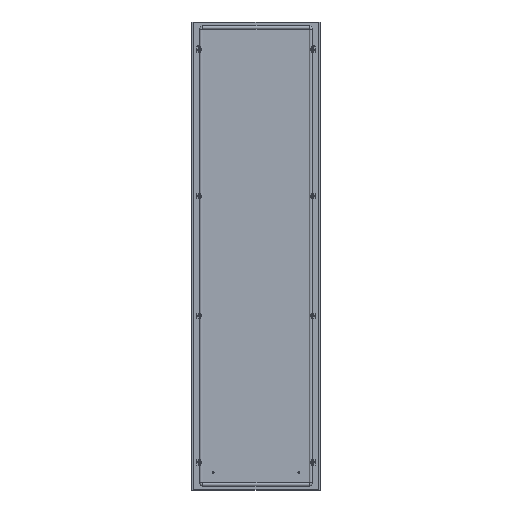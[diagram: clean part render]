
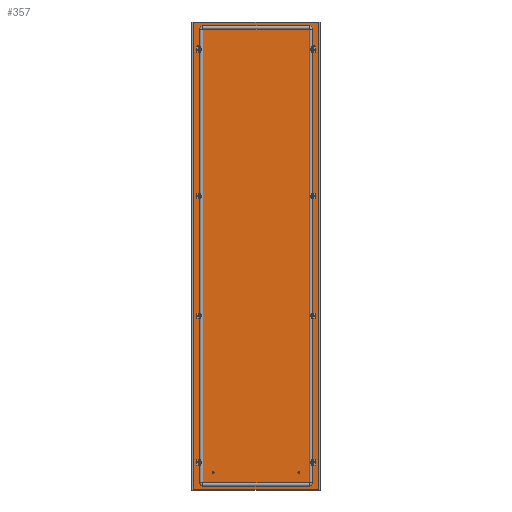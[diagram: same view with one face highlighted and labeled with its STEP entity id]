
A CAD part, top view. The second image highlights one B-rep face of the part: STEP entity #357.
In plain terms, the highlighted planar face has unit normal (0, 0, 1).
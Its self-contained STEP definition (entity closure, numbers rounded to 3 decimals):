
#357 = ADVANCED_FACE('',(#358,#456,#467,#478,#498,#518,#529,#540,#560),
  #580,.F.);
#358 = FACE_BOUND('',#359,.T.);
#359 = EDGE_LOOP('',(#360,#370,#378,#386,#394,#402,#410,#418,#426,#434,
    #442,#450));
#360 = ORIENTED_EDGE('',*,*,#361,.F.);
#361 = EDGE_CURVE('',#362,#364,#366,.T.);
#362 = VERTEX_POINT('',#363);
#363 = CARTESIAN_POINT('',(-295.5,1077.5,
    0.));
#364 = VERTEX_POINT('',#365);
#365 = CARTESIAN_POINT('',(-295.3,1077.5,
    0.));
#366 = LINE('',#367,#368);
#367 = CARTESIAN_POINT('',(0.,1077.5,
    0.));
#368 = VECTOR('',#369,1.);
#369 = DIRECTION('',(1.,0.,0.));
#370 = ORIENTED_EDGE('',*,*,#371,.T.);
#371 = EDGE_CURVE('',#362,#372,#374,.T.);
#372 = VERTEX_POINT('',#373);
#373 = CARTESIAN_POINT('',(-295.5,-1077.5,
    0.));
#374 = LINE('',#375,#376);
#375 = CARTESIAN_POINT('',(-295.5,0.,
    0.));
#376 = VECTOR('',#377,1.);
#377 = DIRECTION('',(0.,-1.,0.));
#378 = ORIENTED_EDGE('',*,*,#379,.T.);
#379 = EDGE_CURVE('',#372,#380,#382,.T.);
#380 = VERTEX_POINT('',#381);
#381 = CARTESIAN_POINT('',(-295.3,-1077.5,
    0.));
#382 = LINE('',#383,#384);
#383 = CARTESIAN_POINT('',(0.,-1077.5,
    0.));
#384 = VECTOR('',#385,1.);
#385 = DIRECTION('',(1.,-0.,-0.));
#386 = ORIENTED_EDGE('',*,*,#387,.F.);
#387 = EDGE_CURVE('',#388,#380,#390,.T.);
#388 = VERTEX_POINT('',#389);
#389 = CARTESIAN_POINT('',(-295.3,-1076.,
    0.));
#390 = LINE('',#391,#392);
#391 = CARTESIAN_POINT('',(-295.3,0.,
    0.));
#392 = VECTOR('',#393,1.);
#393 = DIRECTION('',(0.,-1.,0.));
#394 = ORIENTED_EDGE('',*,*,#395,.T.);
#395 = EDGE_CURVE('',#388,#396,#398,.T.);
#396 = VERTEX_POINT('',#397);
#397 = CARTESIAN_POINT('',(295.3,-1076.,0.));
#398 = LINE('',#399,#400);
#399 = CARTESIAN_POINT('',(0.,-1076.,
    0.));
#400 = VECTOR('',#401,1.);
#401 = DIRECTION('',(1.,-0.,-0.));
#402 = ORIENTED_EDGE('',*,*,#403,.T.);
#403 = EDGE_CURVE('',#396,#404,#406,.T.);
#404 = VERTEX_POINT('',#405);
#405 = CARTESIAN_POINT('',(295.3,-1077.5,0.));
#406 = LINE('',#407,#408);
#407 = CARTESIAN_POINT('',(295.3,-1076.,0.));
#408 = VECTOR('',#409,1.);
#409 = DIRECTION('',(0.,-1.,0.));
#410 = ORIENTED_EDGE('',*,*,#411,.F.);
#411 = EDGE_CURVE('',#412,#404,#414,.T.);
#412 = VERTEX_POINT('',#413);
#413 = CARTESIAN_POINT('',(295.5,-1077.5,
    0.));
#414 = LINE('',#415,#416);
#415 = CARTESIAN_POINT('',(0.,-1077.5,
    0.));
#416 = VECTOR('',#417,1.);
#417 = DIRECTION('',(-1.,0.,0.));
#418 = ORIENTED_EDGE('',*,*,#419,.T.);
#419 = EDGE_CURVE('',#412,#420,#422,.T.);
#420 = VERTEX_POINT('',#421);
#421 = CARTESIAN_POINT('',(295.5,1077.5,
    0.));
#422 = LINE('',#423,#424);
#423 = CARTESIAN_POINT('',(295.5,0.,0.));
#424 = VECTOR('',#425,1.);
#425 = DIRECTION('',(0.,1.,0.));
#426 = ORIENTED_EDGE('',*,*,#427,.T.);
#427 = EDGE_CURVE('',#420,#428,#430,.T.);
#428 = VERTEX_POINT('',#429);
#429 = CARTESIAN_POINT('',(295.3,1077.5,0.));
#430 = LINE('',#431,#432);
#431 = CARTESIAN_POINT('',(0.,1077.5,
    0.));
#432 = VECTOR('',#433,1.);
#433 = DIRECTION('',(-1.,0.,0.));
#434 = ORIENTED_EDGE('',*,*,#435,.F.);
#435 = EDGE_CURVE('',#436,#428,#438,.T.);
#436 = VERTEX_POINT('',#437);
#437 = CARTESIAN_POINT('',(295.3,1076.,0.));
#438 = LINE('',#439,#440);
#439 = CARTESIAN_POINT('',(295.3,0.,0.
    ));
#440 = VECTOR('',#441,1.);
#441 = DIRECTION('',(0.,1.,0.));
#442 = ORIENTED_EDGE('',*,*,#443,.T.);
#443 = EDGE_CURVE('',#436,#444,#446,.T.);
#444 = VERTEX_POINT('',#445);
#445 = CARTESIAN_POINT('',(-295.3,1076.,0.
    ));
#446 = LINE('',#447,#448);
#447 = CARTESIAN_POINT('',(0.,1076.,
    0.));
#448 = VECTOR('',#449,1.);
#449 = DIRECTION('',(-1.,0.,0.));
#450 = ORIENTED_EDGE('',*,*,#451,.T.);
#451 = EDGE_CURVE('',#444,#364,#452,.T.);
#452 = LINE('',#453,#454);
#453 = CARTESIAN_POINT('',(-295.3,1076.,0.
    ));
#454 = VECTOR('',#455,1.);
#455 = DIRECTION('',(0.,1.,0.));
#456 = FACE_BOUND('',#457,.T.);
#457 = EDGE_LOOP('',(#458));
#458 = ORIENTED_EDGE('',*,*,#459,.T.);
#459 = EDGE_CURVE('',#460,#460,#462,.T.);
#460 = VERTEX_POINT('',#461);
#461 = CARTESIAN_POINT('',(-264.5,-270.25,
    0.));
#462 = CIRCLE('',#463,4.75);
#463 = AXIS2_PLACEMENT_3D('',#464,#465,#466);
#464 = CARTESIAN_POINT('',(-264.5,-275.,0.));
#465 = DIRECTION('',(0.,0.,-1.));
#466 = DIRECTION('',(0.,1.,0.));
#467 = FACE_BOUND('',#468,.T.);
#468 = EDGE_LOOP('',(#469));
#469 = ORIENTED_EDGE('',*,*,#470,.T.);
#470 = EDGE_CURVE('',#471,#471,#473,.T.);
#471 = VERTEX_POINT('',#472);
#472 = CARTESIAN_POINT('',(264.5,-279.75,
    0.));
#473 = CIRCLE('',#474,4.75);
#474 = AXIS2_PLACEMENT_3D('',#475,#476,#477);
#475 = CARTESIAN_POINT('',(264.5,-275.,0.));
#476 = DIRECTION('',(-0.,0.,-1.));
#477 = DIRECTION('',(0.,-1.,0.));
#478 = FACE_BOUND('',#479,.T.);
#479 = EDGE_LOOP('',(#480,#491));
#480 = ORIENTED_EDGE('',*,*,#481,.F.);
#481 = EDGE_CURVE('',#482,#484,#486,.T.);
#482 = VERTEX_POINT('',#483);
#483 = CARTESIAN_POINT('',(-264.5,954.75,
    0.));
#484 = VERTEX_POINT('',#485);
#485 = CARTESIAN_POINT('',(-264.5,945.25,
    0.));
#486 = CIRCLE('',#487,4.75);
#487 = AXIS2_PLACEMENT_3D('',#488,#489,#490);
#488 = CARTESIAN_POINT('',(-264.5,950.,0.));
#489 = DIRECTION('',(0.,0.,1.));
#490 = DIRECTION('',(0.,1.,0.));
#491 = ORIENTED_EDGE('',*,*,#492,.F.);
#492 = EDGE_CURVE('',#484,#482,#493,.T.);
#493 = CIRCLE('',#494,4.75);
#494 = AXIS2_PLACEMENT_3D('',#495,#496,#497);
#495 = CARTESIAN_POINT('',(-264.5,950.,0.));
#496 = DIRECTION('',(0.,0.,1.));
#497 = DIRECTION('',(0.,1.,0.));
#498 = FACE_BOUND('',#499,.T.);
#499 = EDGE_LOOP('',(#500,#511));
#500 = ORIENTED_EDGE('',*,*,#501,.F.);
#501 = EDGE_CURVE('',#502,#504,#506,.T.);
#502 = VERTEX_POINT('',#503);
#503 = CARTESIAN_POINT('',(264.5,945.25,
    0.));
#504 = VERTEX_POINT('',#505);
#505 = CARTESIAN_POINT('',(264.5,954.75,
    0.));
#506 = CIRCLE('',#507,4.75);
#507 = AXIS2_PLACEMENT_3D('',#508,#509,#510);
#508 = CARTESIAN_POINT('',(264.5,950.,0.));
#509 = DIRECTION('',(0.,0.,1.));
#510 = DIRECTION('',(0.,-1.,0.));
#511 = ORIENTED_EDGE('',*,*,#512,.F.);
#512 = EDGE_CURVE('',#504,#502,#513,.T.);
#513 = CIRCLE('',#514,4.75);
#514 = AXIS2_PLACEMENT_3D('',#515,#516,#517);
#515 = CARTESIAN_POINT('',(264.5,950.,0.));
#516 = DIRECTION('',(0.,0.,1.));
#517 = DIRECTION('',(0.,-1.,0.));
#518 = FACE_BOUND('',#519,.T.);
#519 = EDGE_LOOP('',(#520));
#520 = ORIENTED_EDGE('',*,*,#521,.T.);
#521 = EDGE_CURVE('',#522,#522,#524,.T.);
#522 = VERTEX_POINT('',#523);
#523 = CARTESIAN_POINT('',(-264.5,-945.25,
    0.));
#524 = CIRCLE('',#525,4.75);
#525 = AXIS2_PLACEMENT_3D('',#526,#527,#528);
#526 = CARTESIAN_POINT('',(-264.5,-950.,0.));
#527 = DIRECTION('',(0.,0.,-1.));
#528 = DIRECTION('',(0.,1.,0.));
#529 = FACE_BOUND('',#530,.T.);
#530 = EDGE_LOOP('',(#531));
#531 = ORIENTED_EDGE('',*,*,#532,.T.);
#532 = EDGE_CURVE('',#533,#533,#535,.T.);
#533 = VERTEX_POINT('',#534);
#534 = CARTESIAN_POINT('',(264.5,-954.75,
    0.));
#535 = CIRCLE('',#536,4.75);
#536 = AXIS2_PLACEMENT_3D('',#537,#538,#539);
#537 = CARTESIAN_POINT('',(264.5,-950.,0.));
#538 = DIRECTION('',(-0.,0.,-1.));
#539 = DIRECTION('',(0.,-1.,0.));
#540 = FACE_BOUND('',#541,.T.);
#541 = EDGE_LOOP('',(#542,#553));
#542 = ORIENTED_EDGE('',*,*,#543,.F.);
#543 = EDGE_CURVE('',#544,#546,#548,.T.);
#544 = VERTEX_POINT('',#545);
#545 = CARTESIAN_POINT('',(264.5,270.25,
    0.));
#546 = VERTEX_POINT('',#547);
#547 = CARTESIAN_POINT('',(264.5,279.75,
    0.));
#548 = CIRCLE('',#549,4.75);
#549 = AXIS2_PLACEMENT_3D('',#550,#551,#552);
#550 = CARTESIAN_POINT('',(264.5,275.,0.));
#551 = DIRECTION('',(0.,0.,1.));
#552 = DIRECTION('',(0.,-1.,0.));
#553 = ORIENTED_EDGE('',*,*,#554,.F.);
#554 = EDGE_CURVE('',#546,#544,#555,.T.);
#555 = CIRCLE('',#556,4.75);
#556 = AXIS2_PLACEMENT_3D('',#557,#558,#559);
#557 = CARTESIAN_POINT('',(264.5,275.,0.));
#558 = DIRECTION('',(0.,0.,1.));
#559 = DIRECTION('',(0.,-1.,0.));
#560 = FACE_BOUND('',#561,.T.);
#561 = EDGE_LOOP('',(#562,#573));
#562 = ORIENTED_EDGE('',*,*,#563,.F.);
#563 = EDGE_CURVE('',#564,#566,#568,.T.);
#564 = VERTEX_POINT('',#565);
#565 = CARTESIAN_POINT('',(-264.5,279.75,
    0.));
#566 = VERTEX_POINT('',#567);
#567 = CARTESIAN_POINT('',(-264.5,270.25,
    0.));
#568 = CIRCLE('',#569,4.75);
#569 = AXIS2_PLACEMENT_3D('',#570,#571,#572);
#570 = CARTESIAN_POINT('',(-264.5,275.,0.));
#571 = DIRECTION('',(0.,0.,1.));
#572 = DIRECTION('',(0.,1.,0.));
#573 = ORIENTED_EDGE('',*,*,#574,.F.);
#574 = EDGE_CURVE('',#566,#564,#575,.T.);
#575 = CIRCLE('',#576,4.75);
#576 = AXIS2_PLACEMENT_3D('',#577,#578,#579);
#577 = CARTESIAN_POINT('',(-264.5,275.,0.));
#578 = DIRECTION('',(0.,0.,1.));
#579 = DIRECTION('',(0.,1.,0.));
#580 = PLANE('',#581);
#581 = AXIS2_PLACEMENT_3D('',#582,#583,#584);
#582 = CARTESIAN_POINT('',(0.,0.,
    0.));
#583 = DIRECTION('',(0.,0.,-1.));
#584 = DIRECTION('',(-1.,0.,0.));
